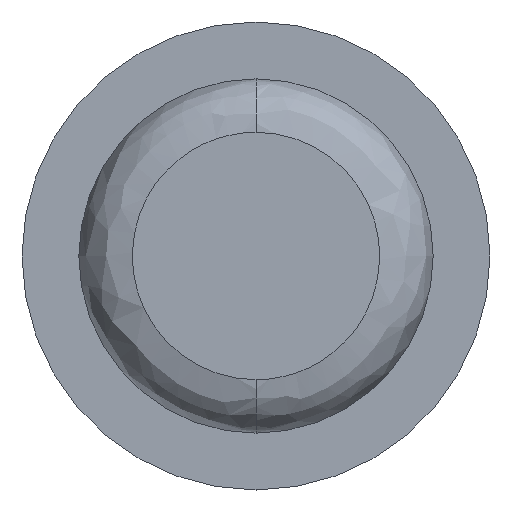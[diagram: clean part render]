
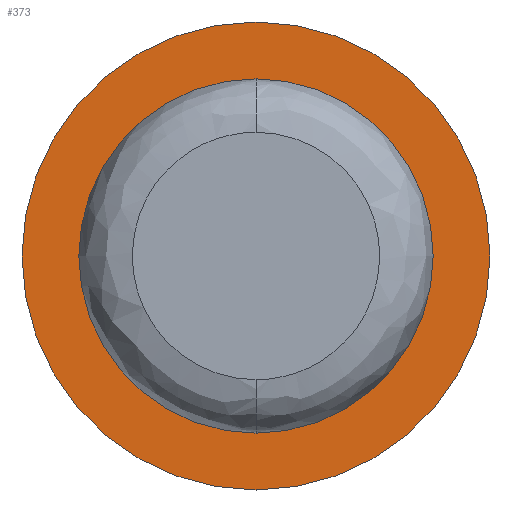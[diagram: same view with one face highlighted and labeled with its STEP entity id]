
A CAD part, front view. The second image highlights one B-rep face of the part: STEP entity #373.
In plain terms, the highlighted planar face has unit normal (0, -1, 0).
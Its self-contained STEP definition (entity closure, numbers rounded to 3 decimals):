
#30 = EDGE_CURVE ( 'NONE', #768, #89, #135, .T. ) ;
#43 = AXIS2_PLACEMENT_3D ( 'NONE', #724, #226, #76 ) ;
#49 = CARTESIAN_POINT ( 'NONE',  ( 0., 7.9, -1.75 ) ) ;
#57 = DIRECTION ( 'NONE',  ( 0., -1., 0. ) ) ;
#63 = EDGE_CURVE ( 'NONE', #495, #199, #409, .T. ) ;
#76 = DIRECTION ( 'NONE',  ( 0., 0., -1. ) ) ;
#89 = VERTEX_POINT ( 'NONE', #232 ) ;
#90 = FACE_BOUND ( 'NONE', #561, .T. ) ;
#135 = CIRCLE ( 'NONE', #408, 1.325 ) ;
#199 = VERTEX_POINT ( 'NONE', #49 ) ;
#226 = DIRECTION ( 'NONE',  ( 0., -1., 0. ) ) ;
#232 = CARTESIAN_POINT ( 'NONE',  ( 0., 7.9, -1.325 ) ) ;
#249 = ORIENTED_EDGE ( 'NONE', *, *, #536, .F. ) ;
#254 = ORIENTED_EDGE ( 'NONE', *, *, #30, .F. ) ;
#291 = DIRECTION ( 'NONE',  ( 0., 0., -1. ) ) ;
#339 = DIRECTION ( 'NONE',  ( 0., 0., -1. ) ) ;
#358 = DIRECTION ( 'NONE',  ( 0., -1., 0. ) ) ;
#373 = ADVANCED_FACE ( 'NONE', ( #90, #433 ), #382, .T. ) ;
#382 = PLANE ( 'NONE',  #664 ) ;
#408 = AXIS2_PLACEMENT_3D ( 'NONE', #525, #57, #339 ) ;
#409 = CIRCLE ( 'NONE', #512, 1.75 ) ;
#433 = FACE_OUTER_BOUND ( 'NONE', #556, .T. ) ;
#443 = CARTESIAN_POINT ( 'NONE',  ( 0., 7.9, 1.75 ) ) ;
#477 = CARTESIAN_POINT ( 'NONE',  ( 0., 7.9, 0. ) ) ;
#495 = VERTEX_POINT ( 'NONE', #443 ) ;
#503 = DIRECTION ( 'NONE',  ( 0., 0., -1. ) ) ;
#506 = DIRECTION ( 'NONE',  ( 0., -1., 0. ) ) ;
#512 = AXIS2_PLACEMENT_3D ( 'NONE', #477, #358, #771 ) ;
#525 = CARTESIAN_POINT ( 'NONE',  ( 0., 7.9, 0. ) ) ;
#535 = AXIS2_PLACEMENT_3D ( 'NONE', #681, #778, #503 ) ;
#536 = EDGE_CURVE ( 'NONE', #89, #768, #702, .T. ) ;
#556 = EDGE_LOOP ( 'NONE', ( #728, #678 ) ) ;
#557 = CARTESIAN_POINT ( 'NONE',  ( 1.325, 7.9, 0. ) ) ;
#559 = CIRCLE ( 'NONE', #43, 1.75 ) ;
#561 = EDGE_LOOP ( 'NONE', ( #249, #254 ) ) ;
#664 = AXIS2_PLACEMENT_3D ( 'NONE', #557, #506, #291 ) ;
#678 = ORIENTED_EDGE ( 'NONE', *, *, #63, .T. ) ;
#681 = CARTESIAN_POINT ( 'NONE',  ( 0., 7.9, 0. ) ) ;
#702 = CIRCLE ( 'NONE', #535, 1.325 ) ;
#714 = CARTESIAN_POINT ( 'NONE',  ( 0., 7.9, 1.325 ) ) ;
#724 = CARTESIAN_POINT ( 'NONE',  ( 0., 7.9, 0. ) ) ;
#728 = ORIENTED_EDGE ( 'NONE', *, *, #737, .T. ) ;
#737 = EDGE_CURVE ( 'NONE', #199, #495, #559, .T. ) ;
#768 = VERTEX_POINT ( 'NONE', #714 ) ;
#771 = DIRECTION ( 'NONE',  ( 0., 0., -1. ) ) ;
#778 = DIRECTION ( 'NONE',  ( 0., -1., 0. ) ) ;
